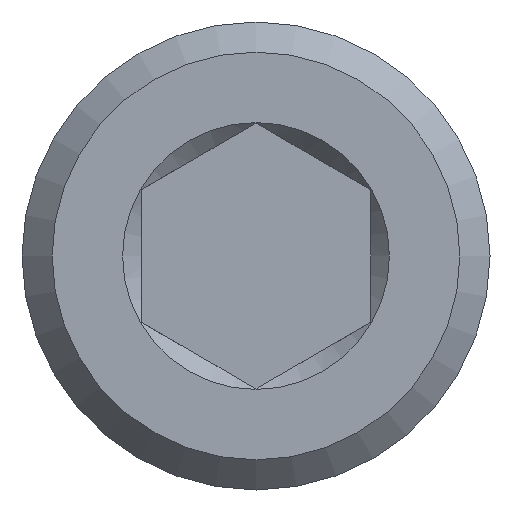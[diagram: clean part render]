
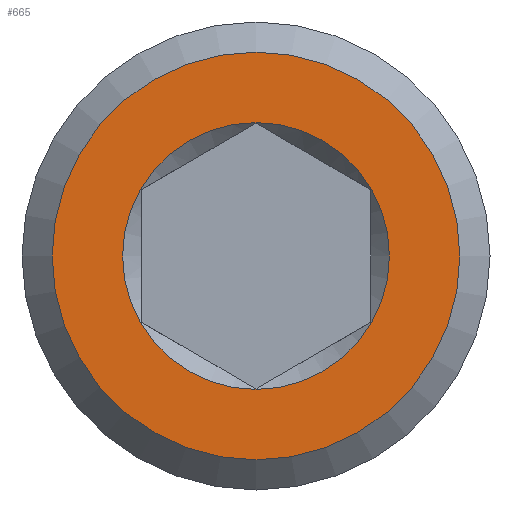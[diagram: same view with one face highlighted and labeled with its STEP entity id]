
A CAD part, front view. The second image highlights one B-rep face of the part: STEP entity #665.
In plain terms, the highlighted planar face has unit normal (0, -1, 0).
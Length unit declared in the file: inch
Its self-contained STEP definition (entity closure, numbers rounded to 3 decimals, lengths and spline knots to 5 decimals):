
#15=FACE_BOUND('',#137,.T.);
#65=CIRCLE('',#735,0.108);
#66=CIRCLE('',#737,0.165);
#101=FACE_OUTER_BOUND('',#136,.T.);
#136=EDGE_LOOP('',(#591));
#137=EDGE_LOOP('',(#592));
#310=VERTEX_POINT('',#1260);
#311=VERTEX_POINT('',#1264);
#407=EDGE_CURVE('',#310,#310,#65,.T.);
#408=EDGE_CURVE('',#311,#311,#66,.T.);
#591=ORIENTED_EDGE('',*,*,#408,.F.);
#592=ORIENTED_EDGE('',*,*,#407,.F.);
#633=PLANE('',#736);
#665=ADVANCED_FACE('',(#101,#15),#633,.T.);
#735=AXIS2_PLACEMENT_3D('',#1262,#892,#893);
#736=AXIS2_PLACEMENT_3D('',#1263,#894,#895);
#737=AXIS2_PLACEMENT_3D('',#1265,#896,#897);
#892=DIRECTION('center_axis',(0.,-1.,0.));
#893=DIRECTION('ref_axis',(0.,0.,1.));
#894=DIRECTION('center_axis',(0.,-1.,0.));
#895=DIRECTION('ref_axis',(0.,0.,-1.));
#896=DIRECTION('center_axis',(0.,1.,0.));
#897=DIRECTION('ref_axis',(0.,0.,1.));
#1260=CARTESIAN_POINT('',(0.,0.,-0.108));
#1262=CARTESIAN_POINT('Origin',(0.,0.,0.));
#1263=CARTESIAN_POINT('Origin',(0.,0.,-0.093));
#1264=CARTESIAN_POINT('',(0.,0.,-0.165));
#1265=CARTESIAN_POINT('Origin',(0.,0.,0.));
